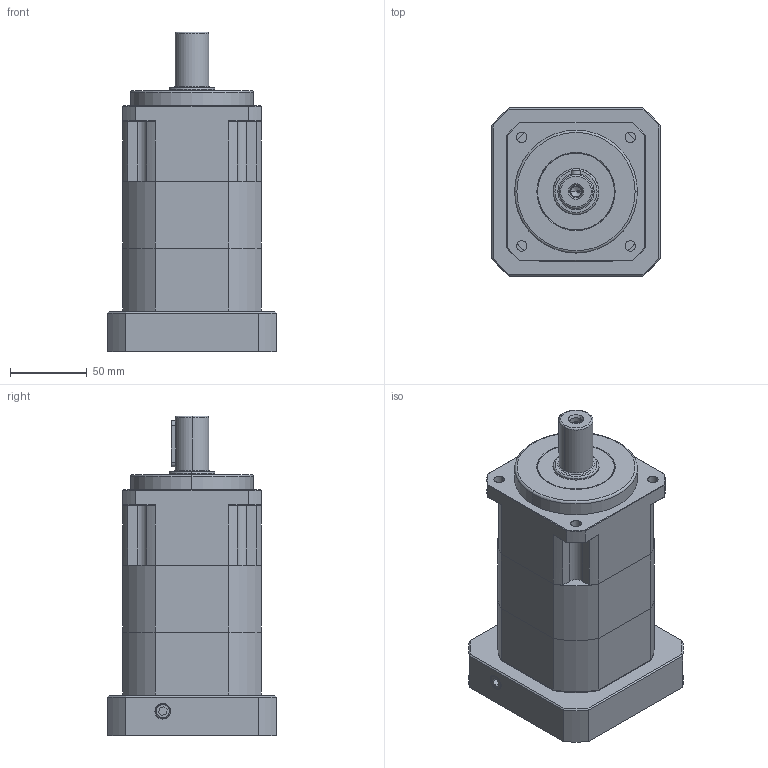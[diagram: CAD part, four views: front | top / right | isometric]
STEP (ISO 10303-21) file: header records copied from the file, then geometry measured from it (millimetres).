
FILE_DESCRIPTION (( 'STEP AP203' ), '1' );
FILE_NAME ('SB90A-2-95M8-3.STEP', '2011-07-12T01:15:27', ( '1' ), ( '' ), 'SwSTEP 2.0', 'SolidWorks 2011', '' );
FILE_SCHEMA (( 'CONFIG_CONTROL_DESIGN' ));
Length unit declared in the file: millimetre
Products named in the file (1): SB90A-2-95M8-3
Bounding box: 110 x 110 x 208 mm (x, y, z)
Volume: 1068985.9 mm3; surface area: 179816 mm2
Topology: 17 solids, 17 shells, 607 faces, 1462 edges, 912 vertices
Faces by surface type: plane 259, cylinder 210, cone 103, torus 26, bspline 9
Entity records: 18644 total; most frequent: CARTESIAN_POINT 4202, DIRECTION 3121, ORIENTED_EDGE 2872, EDGE_CURVE 1436, AXIS2_PLACEMENT_3D 1183, VERTEX_POINT 912, VECTOR 755, LINE 755
